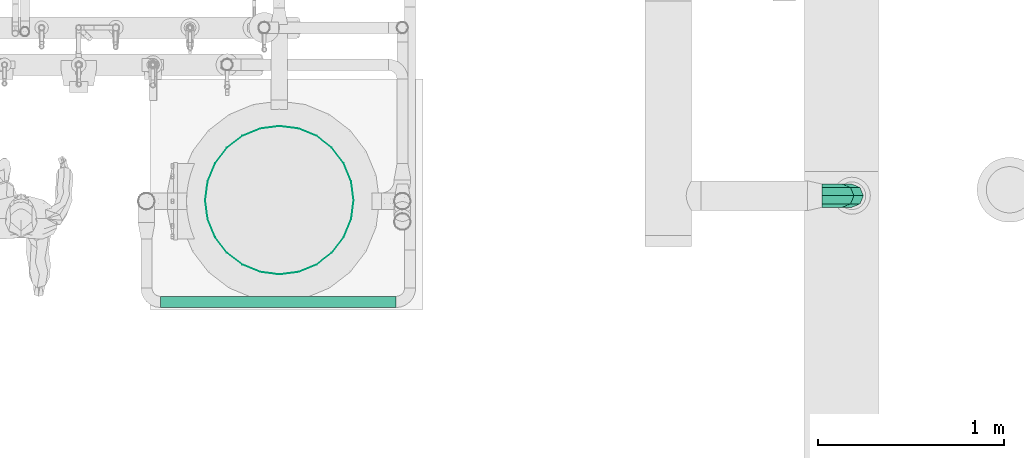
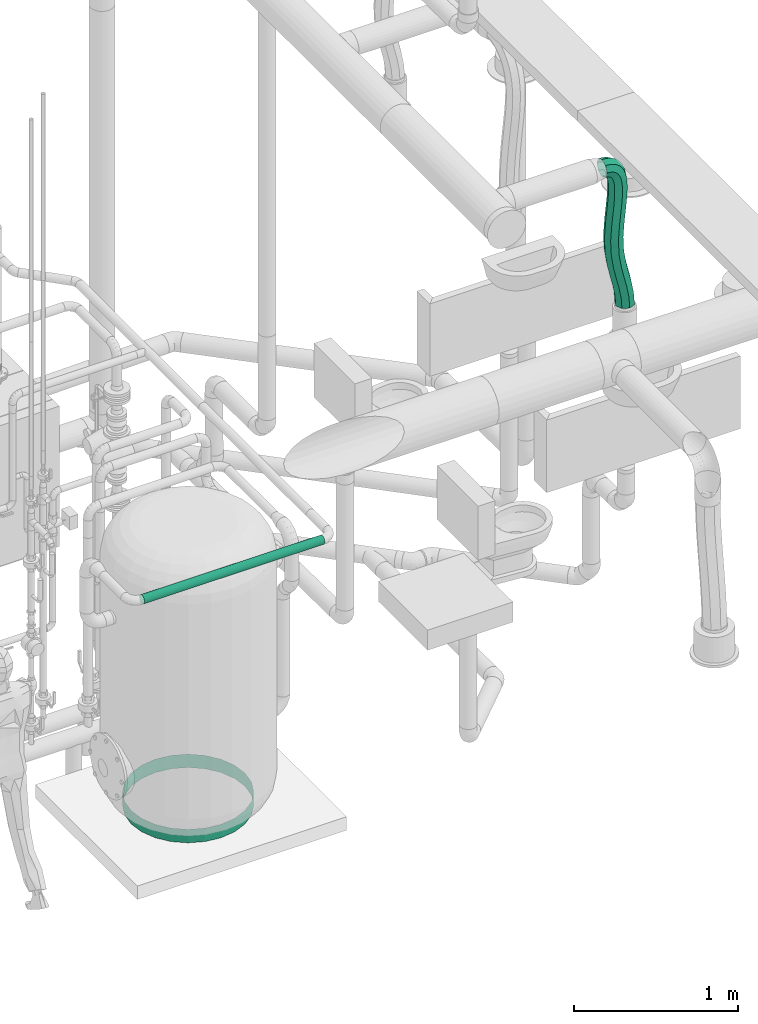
# One storey, part 205 of 374: 3 flow segments.
"""IFC2X3 building model written with IfcOpenShell, lengths in metres."""

import ifcopenshell
import ifcopenshell.guid

model = None  # the IFC model being written
_history = None  # IfcOwnerHistory: only IFC2X3 demands one
_inside = {}  # id of a spatial element -> (the spatial element, [elements in it])
_under = {}  # id of a project, library or spatial element -> (it, [spatial elements below it])
_declared = {}  # id of a project -> (the project, [libraries it declares])
_typed = {}  # id of a type object -> (the type object, [elements of that type])
_made_of = {}  # id of a material, layer set ... -> (it, [elements and type objects made of it])


def new_model(schema):
    """Start an empty IFC model of exactly this schema.

    Asked for "IFC4X3", IfcOpenShell would pick the latest addendum, in which some entities
    have other attributes; the version numbers below select the first issue.
    IFC2X3 requires an IfcOwnerHistory on every rooted entity: one is made here for all.
    """
    global model, _history
    if schema == "IFC4X3":
        model = ifcopenshell.file(schema_version=(4, 3, 0, 0))
    else:
        model = ifcopenshell.file(schema=schema)
    _inside.clear()
    _under.clear()
    _declared.clear()
    _typed.clear()
    _made_of.clear()
    _history = None
    if model.schema == "IFC2X3":
        org = make("IfcOrganization", Name="unknown")
        user = make(
            "IfcPersonAndOrganization",
            ThePerson=make("IfcPerson", FamilyName="unknown"),
            TheOrganization=org,
        )
        app = make(
            "IfcApplication",
            ApplicationDeveloper=org,
            Version="unknown",
            ApplicationFullName="unknown",
            ApplicationIdentifier="unknown",
        )
        _history = make(
            "IfcOwnerHistory",
            OwningUser=user,
            OwningApplication=app,
            ChangeAction="ADDED",
            CreationDate=0,
        )
    return model


def make(cls, **values):
    """One entity of the class cls with the attributes given. An attribute that is None is left unset."""
    return model.create_entity(
        cls, **{name: value for name, value in values.items() if value is not None}
    )


def rooted(cls, **values):
    """An entity with a GlobalId (a new one), such as an element, a storey or a relation."""
    return make(cls, GlobalId=ifcopenshell.guid.new(), OwnerHistory=_history, **values)


def si_unit(unit_type, name, prefix=None):
    """IfcSIUnit, for example si_unit("LENGTHUNIT", "METRE", prefix="MILLI")."""
    return make("IfcSIUnit", UnitType=unit_type, Prefix=prefix, Name=name)


def assignment(units):
    """IfcUnitAssignment: the units of a project."""
    return None if units is None else make("IfcUnitAssignment", Units=units)


def point(xyz):
    """IfcCartesianPoint."""
    return None if xyz is None else make("IfcCartesianPoint", Coordinates=xyz)


def direction(xyz):
    """IfcDirection."""
    return None if xyz is None else make("IfcDirection", DirectionRatios=xyz)


def frame(location, z_axis=None, x_axis=None):
    """IfcAxis2Placement3D, a coordinate frame: its origin and axes. An axis left out is left unset."""
    return make(
        "IfcAxis2Placement3D",
        Location=point(location),
        Axis=direction(z_axis),
        RefDirection=direction(x_axis),
    )


def origin():
    """The frame at (0, 0, 0) with its axes left unset."""
    return frame((0.0, 0.0, 0.0))


def place(relative_to, where):
    """IfcLocalPlacement: puts the frame where relative to a parent placement (None: the world)."""
    return make(
        "IfcLocalPlacement", PlacementRelTo=relative_to, RelativePlacement=where
    )


def context(
    kind, dimensions, precision=None, world=None, true_north=None, identifier=None
):
    """IfcGeometricRepresentationContext, for example the 3D "Model" context."""
    return make(
        "IfcGeometricRepresentationContext",
        ContextIdentifier=identifier,
        ContextType=kind,
        CoordinateSpaceDimension=dimensions,
        Precision=precision,
        WorldCoordinateSystem=world,
        TrueNorth=true_north,
    )


def subcontext(parent, identifier, kind, view, scale=None):
    """IfcGeometricRepresentationSubContext, for example "Body" below "Model"."""
    return make(
        "IfcGeometricRepresentationSubContext",
        ContextIdentifier=identifier,
        ContextType=kind,
        ParentContext=parent,
        TargetScale=scale,
        TargetView=view,
    )


def project(units=None, contexts=None):
    """IfcProject with its units and contexts."""
    return rooted(
        "IfcProject",
        Name="project",
        RepresentationContexts=contexts,
        UnitsInContext=assignment(units),
    )


def spatial(cls, under=None, at=None, **own):
    """A site, building, storey or space (cls), placed at a placement, below another one or the project."""
    s = rooted(cls, ObjectPlacement=at, **own)
    if under is not None:
        _under.setdefault(under.id(), (under, []))[1].append(s)
    return s


def faces_of(points, faces, orient=None, outer=None):
    """IfcFace entities. A face is a list of loops; a loop is a list of indices into points, from 0.

    orient and outer hold one flag for each loop. By default every Orientation is true, the
    first loop of a face is its IfcFaceOuterBound and the others are IfcFaceBound.
    """
    made = []
    for i, loops in enumerate(faces):
        bounds = []
        for j, loop in enumerate(loops):
            is_outer = j == 0 if outer is None else outer[i][j]
            bounds.append(
                make(
                    "IfcFaceOuterBound" if is_outer else "IfcFaceBound",
                    Bound=make("IfcPolyLoop", Polygon=[points[k] for k in loop]),
                    Orientation=True if orient is None else orient[i][j],
                )
            )
        made.append(make("IfcFace", Bounds=bounds))
    return made


def open_shell(faces, orient=None, outer=None):
    """The faces of one IfcOpenShell. surface_model builds it on its shared points."""
    return ("IfcOpenShell", faces, orient, outer)


def surface_model(cls, points, shells):
    """IfcFaceBasedSurfaceModel or IfcShellBasedSurfaceModel (cls): surfaces that need not close."""
    shared = [point(p) for p in points]
    made = [make(c, CfsFaces=faces_of(shared, fs, o, b)) for c, fs, o, b in shells]
    if cls == "IfcFaceBasedSurfaceModel":
        return make(cls, FbsmFaces=made)
    return make(cls, SbsmBoundary=made)


def shape(context_of_items, identifier, shape_type, items):
    """IfcShapeRepresentation: the items that make up one representation, for example the "Body"."""
    return make(
        "IfcShapeRepresentation",
        ContextOfItems=context_of_items,
        RepresentationIdentifier=identifier,
        RepresentationType=shape_type,
        Items=items,
    )


def source(mapping_origin, context_of_items, identifier, shape_type, items):
    """IfcRepresentationMap: a shape defined once, which mapped items show again and again."""
    return make(
        "IfcRepresentationMap",
        MappingOrigin=mapping_origin,
        MappedRepresentation=shape(context_of_items, identifier, shape_type, items),
    )


def transform(
    local_origin,
    x_axis=None,
    y_axis=None,
    z_axis=None,
    scale=None,
    scale2=None,
    scale3=None,
    uniform=True,
):
    """IfcCartesianTransformationOperator3D, or its non-uniform kind. x_axis, y_axis, z_axis: its Axis1, 2, 3."""
    if uniform:
        return make(
            "IfcCartesianTransformationOperator3D",
            Axis1=direction(x_axis),
            Axis2=direction(y_axis),
            LocalOrigin=point(local_origin),
            Scale=scale,
            Axis3=direction(z_axis),
        )
    return make(
        "IfcCartesianTransformationOperator3DnonUniform",
        Axis1=direction(x_axis),
        Axis2=direction(y_axis),
        LocalOrigin=point(local_origin),
        Scale=scale,
        Axis3=direction(z_axis),
        Scale2=scale2,
        Scale3=scale3,
    )


def mapped(mapping_source, mapping_target):
    """IfcMappedItem: shows the shape of a source again, moved by a transform."""
    return make(
        "IfcMappedItem", MappingSource=mapping_source, MappingTarget=mapping_target
    )


def made_of(thing, what):
    """Note that an element or type object is made of a material, layer set ...; save() writes the relation."""
    if what is not None:
        _made_of.setdefault(what.id(), (what, []))[1].append(thing)
    return thing


def element(
    cls,
    number,
    at=None,
    inside=None,
    cuts=None,
    type_object=None,
    material=None,
    context=None,
    identifier="Body",
    shape_type=None,
    held_by="IfcProductDefinitionShape",
    body=None,
    shapes=None,
    **own,
):
    """One element of the class cls, such as IfcWall. Its Tag is "e" and its number.

    at: its placement. inside: the storey or other place that contains it. cuts: it is an
    opening in that element (IfcRelVoidsElement). A single representation is given by context,
    identifier, shape_type and body (its items); several are given by shapes. held_by: the class
    of the entity that holds the representations. save() writes the other relations.
    """
    e = rooted(cls, Tag="e%d" % number, ObjectPlacement=at, **own)
    if body is not None:
        shapes = [shape(context, identifier, shape_type, body)]
    if shapes is not None:
        e.Representation = make(held_by, Representations=shapes)
    if inside is not None:
        _inside.setdefault(inside.id(), (inside, []))[1].append(e)
    if cuts is not None:
        rooted(
            "IfcRelVoidsElement", RelatingBuildingElement=cuts, RelatedOpeningElement=e
        )
    if type_object is not None:
        _typed.setdefault(type_object.id(), (type_object, []))[1].append(e)
    return made_of(e, material)


def aggregate(whole, parts):
    """IfcRelAggregates: a whole, such as a stair, and the parts it consists of."""
    return rooted("IfcRelAggregates", RelatingObject=whole, RelatedObjects=parts)


def save(model, path):
    """Write the relations noted so far, then the file.

    IfcRelAggregates (storeys below a building ...), IfcRelContainedInSpatialStructure (elements
    in a storey), IfcRelDefinesByType, IfcRelAssociatesMaterial and IfcRelDeclares: one each for
    every whole, place, type object, material and project.
    """
    for whole, parts in _under.values():
        aggregate(whole, parts)
    for where, things in _inside.values():
        rooted(
            "IfcRelContainedInSpatialStructure",
            RelatedElements=things,
            RelatingStructure=where,
        )
    for kind, things in _typed.values():
        rooted("IfcRelDefinesByType", RelatedObjects=things, RelatingType=kind)
    for what, things in _made_of.values():
        rooted("IfcRelAssociatesMaterial", RelatedObjects=things, RelatingMaterial=what)
    for by, libraries in _declared.values():
        rooted("IfcRelDeclares", RelatingContext=by, RelatedDefinitions=libraries)
    model.write(path)


model = new_model("IFC2X3")

# Units and contexts
model_context = context("Model", 3, precision=1e-05, world=origin(), true_north=direction((-0.4480736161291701, 0.8939966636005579)))
body_context = subcontext(model_context, "Body", "Model", "MODEL_VIEW")
ifc_project = project(units=[si_unit("LENGTHUNIT", "METRE"), si_unit("AREAUNIT", "SQUARE_METRE"), si_unit("VOLUMEUNIT", "CUBIC_METRE"), si_unit("PLANEANGLEUNIT", "RADIAN"), si_unit("THERMODYNAMICTEMPERATUREUNIT", "KELVIN"), si_unit("MASSUNIT", "GRAM", prefix="KILO"), si_unit("TIMEUNIT", "SECOND")], contexts=[model_context])

# Site, building, storey
site_placement = place(None, origin())
site = spatial("IfcSite", under=ifc_project, at=site_placement, Name="Site 1", CompositionType="ELEMENT")
building_placement = place(site_placement, origin())
building = spatial("IfcBuilding", under=site, at=building_placement, Name="Undefined", CompositionType="ELEMENT")
storey_placement = place(building_placement, origin())
storey = spatial("IfcBuildingStorey", under=building, at=storey_placement, Name="Rez de chauss\x8ee", CompositionType="ELEMENT", Elevation=0.0)

# Flow segments
shared_shape_1 = source(origin(), body_context, "Body", "SurfaceModel", [
    surface_model("IfcFaceBasedSurfaceModel", [(0.05331934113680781, -7.105427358e-15, 0.0), (0.009938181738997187, 0.02015696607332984, -4.4408921e-16), (0.0, 0.0, 0.0), (0.04237763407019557, -0.022189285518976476, -3.2787406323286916e-06), (-0.01056842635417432, -0.01891464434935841, -0.0026958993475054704), (0.030543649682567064, -0.04336700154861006, -0.003024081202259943), (-0.02170563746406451, -0.036309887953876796, -0.008250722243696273), (0.017904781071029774, -0.06310692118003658, -0.009328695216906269), (-0.03321318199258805, -0.05178754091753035, -0.016659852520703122), (0.004742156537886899, -0.08081154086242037, -0.018946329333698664), (-0.044771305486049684, -0.06495191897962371, -0.027652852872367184), (-0.00849154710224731, -0.0958869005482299, -0.031530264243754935), (-0.056054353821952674, -0.07560020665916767, -0.040740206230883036), (-0.02133530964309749, -0.10801179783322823, -0.04642395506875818), (-0.06684608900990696, -0.08379456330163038, -0.05538634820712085), (-0.033482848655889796, -0.1172397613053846, -0.06290573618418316), (-0.07707368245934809, -0.08978595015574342, -0.07116487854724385), (-0.04483069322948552, -0.12389132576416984, -0.08040832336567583), (-0.08676916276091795, -0.09389057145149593, -0.0878070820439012), (-0.05542366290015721, -0.12837929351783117, -0.09858743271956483), (-0.0960134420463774, -0.09640583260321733, -0.10517039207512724), (-0.06537570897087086, -0.13108988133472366, -0.11727718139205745), (-0.10489687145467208, -0.09757927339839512, -0.12318605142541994), (-0.07481413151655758, -0.13233878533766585, -0.13641606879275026), (-0.11350038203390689, -0.09760865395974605, -0.14181810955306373), (-0.08385290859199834, -0.1323713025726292, -0.1559889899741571), (-0.12188978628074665, -0.09665288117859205, -0.16103937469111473), (-0.09258463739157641, -0.13137778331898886, -0.17599322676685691), (-0.13011617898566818, -0.09484367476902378, -0.18081980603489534), (-0.10108110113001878, -0.12951012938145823, -0.196422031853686), (-0.13835727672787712, -0.09224345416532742, -0.20147816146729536), (-0.10959315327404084, -0.12682223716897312, -0.21776193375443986), (-0.15150685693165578, -0.08668400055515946, -0.23594945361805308), (-0.12293890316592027, -0.12117873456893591, -0.2527486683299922), (-0.16464008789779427, -0.079725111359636, -0.2718820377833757), (-0.13624354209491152, -0.11413043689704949, -0.2891487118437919), (-0.17768912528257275, -0.07181064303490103, -0.3086540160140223), (-0.14940892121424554, -0.1061458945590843, -0.3262480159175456), (-0.19702312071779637, -0.059103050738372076, -0.3641863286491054), (-0.16877552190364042, -0.09341720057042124, -0.38187362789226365), (-0.21605777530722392, -0.04657314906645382, -0.4188792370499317), (-0.18766096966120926, -0.08097862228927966, -0.43614518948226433), (-0.2543328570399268, -0.02644082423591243, -0.5234412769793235), (-0.22551967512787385, -0.0610378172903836, -0.5395991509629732), (-0.29234631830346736, -0.01889534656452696, -0.6139735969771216), (-0.2627413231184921, -0.053655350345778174, -0.6282394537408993), (-0.33065025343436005, -0.02126882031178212, -0.6945272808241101), (-0.3003142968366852, -0.056003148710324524, -0.7072349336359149), (-0.369359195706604, -0.029114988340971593, -0.7701062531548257), (-0.33866158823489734, -0.06378658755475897, -0.78209647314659), (-0.40821001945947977, -0.03793826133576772, -0.8449479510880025), (-0.37767209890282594, -0.072641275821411, -0.857250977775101), (-0.44656135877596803, -0.04277955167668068, -0.9229650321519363), (-0.4166998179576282, -0.07754733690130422, -0.9366660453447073), (-0.4831541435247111, -0.03827099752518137, -1.0071673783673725), (-0.4542251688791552, -0.07290680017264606, -1.0230325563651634), (-0.02153179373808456, 0.0326994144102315, -0.03377211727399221), (-0.02904725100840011, 0.01744890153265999, -0.033764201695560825), (-0.03656034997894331, 0.003997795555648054, -0.03567571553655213), (-0.04407223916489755, -0.007736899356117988, -0.039420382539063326), (-0.05158406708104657, -0.017838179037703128, -0.04491192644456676), (-0.05909698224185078, -0.0263890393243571, -0.05206407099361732), (-0.0666121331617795, -0.03347247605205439, -0.06079053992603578), (-0.0741306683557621, -0.039171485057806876, -0.07100505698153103), (-0.08165373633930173, -0.043569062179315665, -0.08262134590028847), (-0.08918248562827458, -0.046748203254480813, -0.09555313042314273), (-0.09671806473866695, -0.04879190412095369, -0.10971413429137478), (-0.10426162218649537, -0.04978316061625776, -0.12501808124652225), (-0.11181430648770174, -0.04980496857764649, -0.1413786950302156), (-0.11937726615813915, -0.048940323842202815, -0.15870969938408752), (-0.12695164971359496, -0.047272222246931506, -0.17692481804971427), (-0.1345386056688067, -0.044883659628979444, -0.19593777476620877), (-0.14721459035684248, -0.039527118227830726, -0.2291646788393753), (-0.15993400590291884, -0.032784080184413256, -0.2639687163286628), (-0.17270216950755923, -0.025038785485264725, -0.2999504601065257), (-0.19195744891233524, -0.012382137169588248, -0.35525752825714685), (-0.2113523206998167, 0.000368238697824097, -0.4109676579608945), (-0.25063262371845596, 0.020962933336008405, -0.518204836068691), (-0.29055769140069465, 0.028901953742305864, -0.6133048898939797), (-0.33062632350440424, 0.026466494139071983, -0.6976204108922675), (-0.3702083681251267, 0.018468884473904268, -0.7749314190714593), (-0.40867367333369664, 0.009721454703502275, -0.849017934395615), (-0.4453920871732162, 0.0050365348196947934, -0.9236599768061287), (-0.47973345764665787, 0.009226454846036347, -1.002637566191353), (-0.02265590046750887, 0.030280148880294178, -0.08153310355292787), (-0.027748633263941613, 0.019936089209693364, -0.08151727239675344), (-0.03220640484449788, 0.011948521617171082, -0.08264440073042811), (-0.036092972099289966, 0.0058743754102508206, -0.08457891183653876), (-0.03960908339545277, 0.0011494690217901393, -0.08715286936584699), (-0.04307679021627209, -0.0027878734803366, -0.09046415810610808), (-0.046824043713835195, -0.006306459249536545, -0.09482974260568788), (-0.05106937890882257, -0.009510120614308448, -0.10061263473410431), (-0.05588792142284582, -0.012313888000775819, -0.10806668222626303), (-0.0612499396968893, -0.01456754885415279, -0.11728804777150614), (-0.06707681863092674, -0.016139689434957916, -0.12824674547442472), (-0.07328050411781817, -0.016948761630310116, -0.14083898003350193), (-0.07978236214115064, -0.01696299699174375, -0.15492814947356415), (-0.08651887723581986, -0.016189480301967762, -0.17036889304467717), (-0.09344125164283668, -0.014662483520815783, -0.1870186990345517), (-0.10037406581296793, -0.012485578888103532, -0.20438625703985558), (-0.11257645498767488, -0.00733194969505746, -0.2363687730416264), (-0.12488205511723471, -0.0008047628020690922, -0.27004426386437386), (-0.13736934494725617, 0.006771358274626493, -0.3052357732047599), (-0.15654590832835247, 0.01937706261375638, -0.360317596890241), (-0.1763009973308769, 0.03234791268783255, -0.4170449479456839), (-0.21658652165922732, 0.05340497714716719, -0.5269572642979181), (-0.25842319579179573, 0.06173754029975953, -0.626625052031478), (-0.30025652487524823, 0.0592400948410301, -0.714702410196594), (-0.34071167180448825, 0.05109104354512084, -0.7937454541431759), (-0.3787914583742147, 0.04241945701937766, -0.8670767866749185), (-0.41387694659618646, 0.03789090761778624, -0.9383437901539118), (-0.445966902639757, 0.041762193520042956, -1.0120966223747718), (0.007224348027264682, 0.014316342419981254, -0.11530522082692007), (0.0031351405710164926, 0.006004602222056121, -0.11528611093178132), (-5.7072960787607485e-05, 0.00028010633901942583, -0.11608833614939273), (-0.0024419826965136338, -0.003449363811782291, -0.11727305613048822), (-0.004303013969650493, -0.005947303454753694, -0.11863850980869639), (-0.006095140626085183, -0.007973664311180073, -0.12035886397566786), (-0.008281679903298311, -0.010015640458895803, -0.12291811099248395), (-0.011171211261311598, -0.012185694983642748, -0.12686536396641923), (-0.014869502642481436, -0.014329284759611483, -0.1325953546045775), (-0.019334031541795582, -0.01619959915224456, -0.14027981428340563), (-0.024453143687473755, -0.01757641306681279, -0.14991207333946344), (-0.030101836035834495, -0.018310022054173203, -0.161381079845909), (-0.03616842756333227, -0.018321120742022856, -0.17452938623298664), (-0.04256261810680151, -0.017585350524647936, -0.18918715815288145), (-0.049214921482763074, -0.016116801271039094, -0.20518859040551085), (-0.05587678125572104, -0.014027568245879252, -0.2218746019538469), (-0.06788300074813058, -0.008957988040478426, -0.25334167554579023), (-0.08001719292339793, -0.002520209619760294, -0.2865497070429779), (-0.09238814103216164, 0.004985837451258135, -0.32141389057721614), (-0.11153209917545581, 0.017570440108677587, -0.37640241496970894), (-0.13143639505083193, 0.030632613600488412, -0.4335511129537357), (-0.17213829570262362, 0.051881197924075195, -0.5445715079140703), (-0.2147667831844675, 0.060376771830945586, -0.6461313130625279), (-0.2573310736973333, 0.05785365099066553, -0.7357668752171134), (-0.29814787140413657, 0.049641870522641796, -0.8155273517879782), (-0.3360679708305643, 0.04100169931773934, -0.8885458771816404), (-0.3704770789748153, 0.03653792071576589, -0.9584148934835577), (-0.401634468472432, 0.04027722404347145, -1.0300035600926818), (0.0506055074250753, -0.005840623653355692, -0.11530522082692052), (0.04551277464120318, -0.01618468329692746, -0.11528938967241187), (0.04105500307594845, -0.024172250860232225, -0.1164165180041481), (0.037168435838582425, -0.030246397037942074, -0.1183510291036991), (0.03365232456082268, -0.03497130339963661, -0.1209249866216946), (0.03018461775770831, -0.038908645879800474, -0.12423627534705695), (0.026437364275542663, -0.04242723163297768, -0.12860185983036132), (0.022192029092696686, -0.04563089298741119, -0.13438475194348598), (0.017373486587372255, -0.04843466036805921, -0.14183879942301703), (0.012011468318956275, -0.05068832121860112, -0.15106016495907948), (0.006184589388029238, -0.05226046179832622, -0.16201886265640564), (-1.9096097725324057e-05, -0.053069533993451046, -0.1746110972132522), (-0.006520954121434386, -0.05308376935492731, -0.18870026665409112), (-0.01325746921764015, -0.052310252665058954, -0.20414101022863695), (-0.02017984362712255, -0.050783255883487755, -0.22079081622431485), (-0.02711265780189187, -0.04860635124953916, -0.23815837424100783), (-0.039315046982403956, -0.04345272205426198, -0.27014089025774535), (-0.05162064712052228, -0.036925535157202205, -0.30381638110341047), (-0.06410793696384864, -0.029349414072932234, -0.33900789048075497), (-0.08328450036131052, -0.016743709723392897, -0.3940897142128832), (-0.10303958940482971, -0.0037728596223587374, -0.45081706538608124), (-0.14332511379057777, 0.017284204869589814, -0.560729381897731), (-0.1851617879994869, 0.02561676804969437, -0.660397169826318), (-0.22699511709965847, 0.02311932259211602, -0.7484745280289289), (-0.26745026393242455, 0.014970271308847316, -0.827517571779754), (-0.3055300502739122, 0.006298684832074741, -0.900848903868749), (-0.34061553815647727, 0.001770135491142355, -0.9721159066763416), (-0.3727054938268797, 0.005641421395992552, -1.0458687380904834), (0.08207548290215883, -0.018383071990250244, -0.08153310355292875), (0.07456002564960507, -0.03363358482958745, -0.08152518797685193), (0.06704692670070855, -0.04708469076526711, -0.08343670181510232), (0.05953503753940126, -0.058819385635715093, -0.08718136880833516), (0.052023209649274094, -0.06892066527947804, -0.09267291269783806), (0.044510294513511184, -0.07747152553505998, -0.09982505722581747), (0.03699514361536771, -0.08455496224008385, -0.10855152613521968), (0.029476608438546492, -0.09025397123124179, -0.11876604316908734), (0.02195354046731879, -0.09465154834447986, -0.13038233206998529), (0.014424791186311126, -0.09783068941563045, -0.14331411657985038), (0.006889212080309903, -0.09987439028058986, -0.15747512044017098), (-0.0006543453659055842, -0.10086564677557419, -0.17277906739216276), (-0.008207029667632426, -0.10088745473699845, -0.18913968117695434), (-0.015769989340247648, -0.10002281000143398, -0.2064706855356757), (-0.02334437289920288, -0.09835470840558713, -0.224685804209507), (-0.030931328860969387, -0.09596614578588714, -0.24369876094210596), (-0.04360731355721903, -0.09060960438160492, -0.27692566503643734), (-0.05632672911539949, -0.08386656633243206, -0.31172970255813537), (-0.06909489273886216, -0.07612127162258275, -0.34771144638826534), (-0.08835017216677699, -0.06346462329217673, -0.4030185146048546), (-0.10774504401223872, -0.05071424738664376, -0.45872864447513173), (-0.14702534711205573, -0.03011955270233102, -0.5659658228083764), (-0.18695041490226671, -0.022180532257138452, -0.6610658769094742), (-0.22701904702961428, -0.024615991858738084, -0.7453813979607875), (-0.266601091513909, -0.03261360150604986, -0.8226924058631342), (-0.3050663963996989, -0.041361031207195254, -0.8967789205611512), (-0.34178480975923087, -0.04604595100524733, -0.971420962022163), (-0.37612617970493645, -0.04185603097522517, -1.0503985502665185), (0.08319958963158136, -0.01596380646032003, -0.033772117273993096), (0.07326140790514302, -0.03612077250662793, -0.03377211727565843), (0.06269298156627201, -0.05503541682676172, -0.03646801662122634), (0.05155577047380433, -0.07243066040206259, -0.04202283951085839), (0.04004822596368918, -0.0879083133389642, -0.050431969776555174), (0.028490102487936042, -0.10107269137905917, -0.061424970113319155), (0.017207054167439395, -0.11172097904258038, -0.0745123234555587), (0.006415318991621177, -0.11991533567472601, -0.08915846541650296), (-0.003812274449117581, -0.1259067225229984, -0.10493699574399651), (-0.013507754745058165, -0.13001134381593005, -0.12157919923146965), (-0.022752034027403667, -0.1325266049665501, -0.13894250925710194), (-0.03163546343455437, -0.13370004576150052, -0.1569581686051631), (-0.04023897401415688, -0.13372942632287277, -0.17559022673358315), (-0.048628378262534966, -0.1327736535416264, -0.19481149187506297), (-0.056854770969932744, -0.13096444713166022, -0.21459192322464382), (-0.0650958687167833, -0.12836422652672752, -0.2352502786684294), (-0.07824544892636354, -0.12280477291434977, -0.2697215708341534), (-0.09137867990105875, -0.1158458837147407, -0.3056541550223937), (-0.10442771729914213, -0.10793141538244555, -0.3424261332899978), (-0.12376171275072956, -0.09522382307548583, -0.3979584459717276), (-0.14279636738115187, -0.08269392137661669, -0.4526513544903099), (-0.18107144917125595, -0.06256159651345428, -0.55721339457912), (-0.21908491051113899, -0.05501611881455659, -0.6477457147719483), (-0.25738884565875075, -0.057389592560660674, -0.7282993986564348), (-0.29609778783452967, -0.0652357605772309, -0.8038783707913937), (-0.33494861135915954, -0.074059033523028, -0.8787200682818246), (-0.37329995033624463, -0.07890032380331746, -0.9567371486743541), (-0.40989273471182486, -0.07439176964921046, -1.0409394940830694)], [open_shell([[[0, 1, 2]], [[2, 3, 0]], [[3, 2, 4]], [[4, 5, 3]], [[5, 4, 6]], [[6, 7, 5]], [[7, 6, 8]], [[8, 9, 7]], [[9, 8, 10]], [[10, 11, 9]], [[11, 10, 12]], [[12, 13, 11]], [[13, 12, 14]], [[14, 15, 13]], [[15, 14, 16]], [[16, 17, 15]], [[17, 16, 18]], [[18, 19, 17]], [[19, 18, 20]], [[20, 21, 19]], [[21, 20, 22]], [[22, 23, 21]], [[23, 22, 24]], [[24, 25, 23]], [[25, 24, 26]], [[26, 27, 25]], [[27, 26, 28]], [[28, 29, 27]], [[29, 28, 30]], [[30, 31, 29]], [[31, 30, 32]], [[32, 33, 31]], [[33, 32, 34]], [[34, 35, 33]], [[35, 34, 36]], [[36, 37, 35]], [[37, 36, 38]], [[38, 39, 37]], [[39, 38, 40]], [[40, 41, 39]], [[41, 40, 42]], [[42, 43, 41]], [[43, 42, 44]], [[44, 45, 43]], [[45, 44, 46]], [[46, 47, 45]], [[47, 46, 48]], [[48, 49, 47]], [[49, 48, 50]], [[50, 51, 49]], [[51, 50, 52]], [[52, 53, 51]], [[53, 52, 54]], [[54, 55, 53]], [[1, 56, 57]], [[57, 2, 1]], [[2, 57, 58]], [[58, 4, 2]], [[4, 58, 59]], [[59, 6, 4]], [[6, 59, 60]], [[60, 8, 6]], [[8, 60, 61]], [[61, 10, 8]], [[10, 61, 62]], [[62, 12, 10]], [[12, 62, 63]], [[63, 14, 12]], [[14, 63, 64]], [[64, 16, 14]], [[16, 64, 65]], [[65, 18, 16]], [[18, 65, 66]], [[66, 20, 18]], [[20, 66, 67]], [[67, 22, 20]], [[22, 67, 68]], [[68, 24, 22]], [[24, 68, 69]], [[69, 26, 24]], [[26, 69, 70]], [[70, 28, 26]], [[28, 70, 71]], [[71, 30, 28]], [[30, 71, 72]], [[72, 32, 30]], [[32, 72, 73]], [[73, 34, 32]], [[34, 73, 74]], [[74, 36, 34]], [[36, 74, 75]], [[75, 38, 36]], [[38, 75, 76]], [[76, 40, 38]], [[40, 76, 77]], [[77, 42, 40]], [[42, 77, 78]], [[78, 44, 42]], [[44, 78, 79]], [[79, 46, 44]], [[46, 79, 80]], [[80, 48, 46]], [[48, 80, 81]], [[81, 50, 48]], [[50, 81, 82]], [[82, 52, 50]], [[52, 82, 83]], [[83, 54, 52]], [[56, 84, 85]], [[85, 57, 56]], [[57, 85, 86]], [[86, 58, 57]], [[58, 86, 87]], [[87, 59, 58]], [[59, 87, 88]], [[88, 60, 59]], [[60, 88, 89]], [[89, 61, 60]], [[61, 89, 90]], [[90, 62, 61]], [[62, 90, 91]], [[91, 63, 62]], [[63, 91, 92]], [[92, 64, 63]], [[64, 92, 93]], [[93, 65, 64]], [[65, 93, 94]], [[94, 66, 65]], [[66, 94, 95]], [[95, 67, 66]], [[67, 95, 96]], [[96, 68, 67]], [[68, 96, 97]], [[97, 69, 68]], [[69, 97, 98]], [[98, 70, 69]], [[70, 98, 99]], [[99, 71, 70]], [[71, 99, 100]], [[100, 72, 71]], [[72, 100, 101]], [[101, 73, 72]], [[73, 101, 102]], [[102, 74, 73]], [[74, 102, 103]], [[103, 75, 74]], [[75, 103, 104]], [[104, 76, 75]], [[76, 104, 105]], [[105, 77, 76]], [[77, 105, 106]], [[106, 78, 77]], [[78, 106, 107]], [[107, 79, 78]], [[79, 107, 108]], [[108, 80, 79]], [[80, 108, 109]], [[109, 81, 80]], [[81, 109, 110]], [[110, 82, 81]], [[82, 110, 111]], [[111, 83, 82]], [[84, 112, 113]], [[113, 85, 84]], [[85, 113, 114]], [[114, 86, 85]], [[86, 114, 115]], [[115, 87, 86]], [[87, 115, 116]], [[116, 88, 87]], [[88, 116, 117]], [[117, 89, 88]], [[89, 117, 118]], [[118, 90, 89]], [[90, 118, 119]], [[119, 91, 90]], [[91, 119, 120]], [[120, 92, 91]], [[92, 120, 121]], [[121, 93, 92]], [[93, 121, 122]], [[122, 94, 93]], [[94, 122, 123]], [[123, 95, 94]], [[95, 123, 124]], [[124, 96, 95]], [[96, 124, 125]], [[125, 97, 96]], [[97, 125, 126]], [[126, 98, 97]], [[98, 126, 127]], [[127, 99, 98]], [[99, 127, 128]], [[128, 100, 99]], [[100, 128, 129]], [[129, 101, 100]], [[101, 129, 130]], [[130, 102, 101]], [[102, 130, 131]], [[131, 103, 102]], [[103, 131, 132]], [[132, 104, 103]], [[104, 132, 133]], [[133, 105, 104]], [[105, 133, 134]], [[134, 106, 105]], [[106, 134, 135]], [[135, 107, 106]], [[107, 135, 136]], [[136, 108, 107]], [[108, 136, 137]], [[137, 109, 108]], [[109, 137, 138]], [[138, 110, 109]], [[110, 138, 139]], [[139, 111, 110]], [[112, 140, 141]], [[141, 113, 112]], [[113, 141, 142]], [[142, 114, 113]], [[114, 142, 143]], [[143, 115, 114]], [[115, 143, 144]], [[144, 116, 115]], [[116, 144, 145]], [[145, 117, 116]], [[117, 145, 146]], [[146, 118, 117]], [[118, 146, 147]], [[147, 119, 118]], [[119, 147, 148]], [[148, 120, 119]], [[120, 148, 149]], [[149, 121, 120]], [[121, 149, 150]], [[150, 122, 121]], [[122, 150, 151]], [[151, 123, 122]], [[123, 151, 152]], [[152, 124, 123]], [[124, 152, 153]], [[153, 125, 124]], [[125, 153, 154]], [[154, 126, 125]], [[126, 154, 155]], [[155, 127, 126]], [[127, 155, 156]], [[156, 128, 127]], [[128, 156, 157]], [[157, 129, 128]], [[129, 157, 158]], [[158, 130, 129]], [[130, 158, 159]], [[159, 131, 130]], [[131, 159, 160]], [[160, 132, 131]], [[132, 160, 161]], [[161, 133, 132]], [[133, 161, 162]], [[162, 134, 133]], [[134, 162, 163]], [[163, 135, 134]], [[135, 163, 164]], [[164, 136, 135]], [[136, 164, 165]], [[165, 137, 136]], [[137, 165, 166]], [[166, 138, 137]], [[138, 166, 167]], [[167, 139, 138]], [[140, 168, 169]], [[169, 141, 140]], [[141, 169, 170]], [[170, 142, 141]], [[142, 170, 171]], [[171, 143, 142]], [[143, 171, 172]], [[172, 144, 143]], [[144, 172, 173]], [[173, 145, 144]], [[145, 173, 174]], [[174, 146, 145]], [[146, 174, 175]], [[175, 147, 146]], [[147, 175, 176]], [[176, 148, 147]], [[148, 176, 177]], [[177, 149, 148]], [[149, 177, 178]], [[178, 150, 149]], [[150, 178, 179]], [[179, 151, 150]], [[151, 179, 180]], [[180, 152, 151]], [[152, 180, 181]], [[181, 153, 152]], [[153, 181, 182]], [[182, 154, 153]], [[154, 182, 183]], [[183, 155, 154]], [[155, 183, 184]], [[184, 156, 155]], [[156, 184, 185]], [[185, 157, 156]], [[157, 185, 186]], [[186, 158, 157]], [[158, 186, 187]], [[187, 159, 158]], [[159, 187, 188]], [[188, 160, 159]], [[160, 188, 189]], [[189, 161, 160]], [[161, 189, 190]], [[190, 162, 161]], [[162, 190, 191]], [[191, 163, 162]], [[163, 191, 192]], [[192, 164, 163]], [[164, 192, 193]], [[193, 165, 164]], [[165, 193, 194]], [[194, 166, 165]], [[166, 194, 195]], [[195, 167, 166]], [[168, 196, 197]], [[197, 169, 168]], [[169, 197, 198]], [[198, 170, 169]], [[170, 198, 199]], [[199, 171, 170]], [[171, 199, 200]], [[200, 172, 171]], [[172, 200, 201]], [[201, 173, 172]], [[173, 201, 202]], [[202, 174, 173]], [[174, 202, 203]], [[203, 175, 174]], [[175, 203, 204]], [[204, 176, 175]], [[176, 204, 205]], [[205, 177, 176]], [[177, 205, 206]], [[206, 178, 177]], [[178, 206, 207]], [[207, 179, 178]], [[179, 207, 208]], [[208, 180, 179]], [[180, 208, 209]], [[209, 181, 180]], [[181, 209, 210]], [[210, 182, 181]], [[182, 210, 211]], [[211, 183, 182]], [[183, 211, 212]], [[212, 184, 183]], [[184, 212, 213]], [[213, 185, 184]], [[185, 213, 214]], [[214, 186, 185]], [[186, 214, 215]], [[215, 187, 186]], [[187, 215, 216]], [[216, 188, 187]], [[188, 216, 217]], [[217, 189, 188]], [[189, 217, 218]], [[218, 190, 189]], [[190, 218, 219]], [[219, 191, 190]], [[191, 219, 220]], [[220, 192, 191]], [[192, 220, 221]], [[221, 193, 192]], [[193, 221, 222]], [[222, 194, 193]], [[194, 222, 223]], [[223, 195, 194]], [[196, 0, 3]], [[3, 197, 196]], [[197, 3, 5]], [[5, 198, 197]], [[198, 5, 7]], [[7, 199, 198]], [[199, 7, 9]], [[9, 200, 199]], [[200, 9, 11]], [[11, 201, 200]], [[201, 11, 13]], [[13, 202, 201]], [[202, 13, 15]], [[15, 203, 202]], [[203, 15, 17]], [[17, 204, 203]], [[204, 17, 19]], [[19, 205, 204]], [[205, 19, 21]], [[21, 206, 205]], [[206, 21, 23]], [[23, 207, 206]], [[207, 23, 25]], [[25, 208, 207]], [[208, 25, 27]], [[27, 209, 208]], [[209, 27, 29]], [[29, 210, 209]], [[210, 29, 31]], [[31, 211, 210]], [[211, 31, 33]], [[33, 212, 211]], [[212, 33, 35]], [[35, 213, 212]], [[213, 35, 37]], [[37, 214, 213]], [[214, 37, 39]], [[39, 215, 214]], [[215, 39, 41]], [[41, 216, 215]], [[216, 41, 43]], [[43, 217, 216]], [[217, 43, 45]], [[45, 218, 217]], [[218, 45, 47]], [[47, 219, 218]], [[219, 47, 49]], [[49, 220, 219]], [[220, 49, 51]], [[51, 221, 220]], [[221, 51, 53]], [[53, 222, 221]], [[222, 53, 55]], [[55, 223, 222]]])]),
])
flow_segment_1_placement = place(storey_placement, origin())
element("IfcFlowSegment", 1, at=flow_segment_1_placement, inside=storey, Name="Tube flexible", ObjectType="Tube flexible", context=body_context, shape_type="MappedRepresentation", body=[
    mapped(shared_shape_1, transform((57.28743282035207, 9.968039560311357, 3.8428379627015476), x_axis=(-0.4207257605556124, 0.828858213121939, 0.36875994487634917), y_axis=(-0.9054721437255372, -0.4086598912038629, -0.1145307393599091), z_axis=(0.05576765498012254, -0.38208789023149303, 0.922441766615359))),
])
shared_shape_2 = source(origin(), body_context, "Body", "SurfaceModel", [
    surface_model("IfcFaceBasedSurfaceModel", [(0.0, 0.0, 0.0), (0.10442095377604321, 0.0, 0.0), (0.10442095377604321, 0.1, 0.0), (0.0, 0.09999999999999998, 0.0), (0.2052838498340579, 0.0, -0.027026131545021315), (0.2052838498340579, 0.1, -0.027026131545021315), (0.2957150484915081, 0.0, -0.07923660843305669), (0.2957150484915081, 0.1, -0.07923660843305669), (0.3695518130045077, 0.0, -0.15307337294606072), (0.3695518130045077, 0.1, -0.15307337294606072), (0.42176228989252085, 0.0, -0.24350457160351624), (0.42176228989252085, 0.1, -0.24350457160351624), (0.4487884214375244, 0.0, -0.34436746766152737), (0.4487884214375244, 0.1, -0.34436746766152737), (0.4487884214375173, 0.0, -0.4487884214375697), (0.4487884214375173, 0.1, -0.4487884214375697), (0.42176228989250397, 0.0, -0.5496513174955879), (0.42176228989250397, 0.1, -0.5496513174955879), (0.36955181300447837, 0.0, -0.6400825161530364), (0.36955181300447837, 0.1, -0.6400825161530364), (0.295715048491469, 0.0, -0.7139192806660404), (0.295715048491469, 0.1, -0.7139192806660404), (0.2052838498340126, 0.0, -0.7661297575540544), (0.2052838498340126, 0.1, -0.7661297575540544), (0.10442095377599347, 0.0, -0.7931558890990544), (0.10442095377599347, 0.1, -0.7931558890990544), (0.0, -1.4210854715e-14, -0.7931558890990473), (-4.6185277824e-14, 0.1, -0.7931558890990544), (-0.10086289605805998, 0.0, -0.7661297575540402), (-0.10086289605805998, 0.1, -0.7661297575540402), (-0.19129409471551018, 0.0, -0.7139192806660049), (-0.19129409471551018, 0.1, -0.7139192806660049), (-0.26513085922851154, 0.0, -0.6400825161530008), (-0.26513085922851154, 0.1, -0.6400825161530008), (-0.3173413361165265, 0.0, -0.5496513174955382), (-0.3173413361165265, 0.1, -0.5496513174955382), (-0.34436746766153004, 0.0, -0.44878842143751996), (-0.34436746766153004, 0.1, -0.44878842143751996), (-0.34436746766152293, 0.0, -0.34436746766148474), (-0.34436746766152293, 0.1, -0.34436746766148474), (-0.31734133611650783, 0.0, -0.2435045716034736), (-0.31734133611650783, 0.1, -0.2435045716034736), (-0.26513085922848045, 0.0, -0.1530733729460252), (-0.26513085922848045, 0.1, -0.1530733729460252), (-0.1912940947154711, 0.0, -0.07923660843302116), (-0.1912940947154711, 0.1, -0.07923660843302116), (-0.1008628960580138, 0.0, -0.027026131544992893), (-0.1008628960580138, 0.1, -0.027026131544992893)], [open_shell([[[0, 1, 2, 3]], [[1, 4, 5, 2]], [[4, 6, 7, 5]], [[6, 8, 9, 7]], [[8, 10, 11, 9]], [[10, 12, 13, 11]], [[12, 14, 15, 13]], [[14, 16, 17, 15]], [[16, 18, 19, 17]], [[18, 20, 21, 19]], [[20, 22, 23, 21]], [[22, 24, 25, 23]], [[24, 26, 27, 25]], [[26, 28, 29, 27]], [[28, 30, 31, 29]], [[30, 32, 33, 31]], [[32, 34, 35, 33]], [[34, 36, 37, 35]], [[36, 38, 39, 37]], [[38, 40, 41, 39]], [[40, 42, 43, 41]], [[42, 44, 45, 43]], [[44, 46, 47, 45]], [[46, 0, 3, 47]]])]),
])
flow_segment_2_placement = place(storey_placement, origin())
element("IfcFlowSegment", 2, at=flow_segment_2_placement, inside=storey, Name="Tube acier d'après DIN 2448", ObjectType="Tube acier d'après DIN 2448", context=body_context, shape_type="MappedRepresentation", body=[
    mapped(shared_shape_2, transform((53.93956355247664, 9.98777260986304, 0.1), x_axis=(0.13052619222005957, -0.9914448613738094, 0.0), y_axis=(0.0, 0.0, 1.0), z_axis=(-0.9914448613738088, -0.13052619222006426, 0.0))),
])
shared_shape_3 = source(origin(), body_context, "Body", "SurfaceModel", [
    surface_model("IfcFaceBasedSurfaceModel", [(0.0, 0.007870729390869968, 7.105427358e-15), (0.0, 0.0, 0.0), (1.2692583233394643, 0.0, 0.0), (1.2692583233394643, 0.007870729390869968, 0.0), (0.0, -0.00760254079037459, -0.0020370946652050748), (1.2692583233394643, -0.007602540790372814, -0.0020370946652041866), (0.0, -0.01441879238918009, -0.00597245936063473), (1.2692583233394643, -0.014418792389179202, -0.0059724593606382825), (0.0, -0.019984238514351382, -0.011537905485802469), (1.2692583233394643, -0.019984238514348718, -0.011537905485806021), (0.0, -0.023919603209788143, -0.018354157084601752), (1.2692583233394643, -0.023919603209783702, -0.018354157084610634), (0.0, -0.025956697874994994, -0.025956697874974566), (1.2692583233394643, -0.025956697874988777, -0.02595669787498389), (0.0, -0.025956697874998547, -0.03382742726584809), (1.2692583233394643, -0.025956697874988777, -0.03382742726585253), (0.0, -0.02391960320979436, -0.041429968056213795), (1.2692583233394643, -0.02391960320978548, -0.04142996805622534), (0.0, -0.019984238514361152, -0.04824621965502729), (1.2692583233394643, -0.019984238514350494, -0.04824621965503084), (0.0, -0.01441879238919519, -0.05381166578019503), (1.2692583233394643, -0.014418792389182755, -0.05381166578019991), (0.0, -0.007602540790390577, -0.05774703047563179), (1.2692583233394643, -0.007602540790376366, -0.0577470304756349), (0.0, -1.7763568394e-14, -0.05978412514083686), (1.2692583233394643, -3.552713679e-15, -0.059784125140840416), (0.0, 0.007870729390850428, -0.05978412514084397), (1.2692583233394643, 0.00787072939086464, -0.059784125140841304), (0.0, 0.015473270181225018, -0.057747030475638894), (1.2692583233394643, 0.015473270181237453, -0.05774703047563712), (0.0, 0.022289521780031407, -0.05381166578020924), (1.2692583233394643, 0.02228952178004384, -0.053811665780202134), (0.0, 0.027854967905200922, -0.048246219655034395), (1.2692583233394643, 0.02785496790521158, -0.04824621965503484), (0.0, 0.031790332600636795, -0.04142996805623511), (1.2692583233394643, 0.03179033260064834, -0.04142996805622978), (0.0, 0.033827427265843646, -0.0338274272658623), (1.2692583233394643, 0.03382742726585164, -0.03382742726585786), (0.0, 0.0338274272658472, -0.025956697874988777), (1.2692583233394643, 0.033827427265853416, -0.02595669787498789), (0.0, 0.0317903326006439, -0.01835415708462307), (1.2692583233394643, 0.03179033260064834, -0.01835415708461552), (0.0, 0.02785496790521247, -0.01153790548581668), (1.2692583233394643, 0.027854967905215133, -0.011537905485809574), (0.0, 0.022289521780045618, -0.005972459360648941), (1.2692583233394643, 0.022289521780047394, -0.005972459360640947), (0.0, 0.015473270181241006, -0.0020370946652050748), (1.2692583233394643, 0.015473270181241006, -0.002037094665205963)], [open_shell([[[0, 1, 2, 3]], [[1, 4, 5, 2]], [[4, 6, 7, 5]], [[6, 8, 9, 7]], [[8, 10, 11, 9]], [[10, 12, 13, 11]], [[12, 14, 15, 13]], [[14, 16, 17, 15]], [[16, 18, 19, 17]], [[18, 20, 21, 19]], [[20, 22, 23, 21]], [[22, 24, 25, 23]], [[24, 26, 27, 25]], [[26, 28, 29, 27]], [[28, 30, 31, 29]], [[30, 32, 33, 31]], [[32, 34, 35, 33]], [[34, 36, 37, 35]], [[36, 38, 39, 37]], [[38, 40, 41, 39]], [[40, 42, 43, 41]], [[42, 44, 45, 43]], [[44, 46, 47, 45]], [[46, 0, 3, 47]]])]),
])
flow_segment_3_placement = place(storey_placement, origin())
element("IfcFlowSegment", 3, at=flow_segment_3_placement, inside=storey, Name="Tube acier d'après DIN 2448", ObjectType="Tube acier d'après DIN 2448", context=body_context, shape_type="MappedRepresentation", body=[
    mapped(shared_shape_3, transform((54.9680888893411, 9.447360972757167, 2.2171226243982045), x_axis=(-1.0, 0.0, 0.0), y_axis=(7.266545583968e-12, -0.9914448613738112, 0.13052619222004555), z_axis=(0.0, 0.13052619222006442, 0.9914448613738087))),
])

save(model, "model.ifc")
